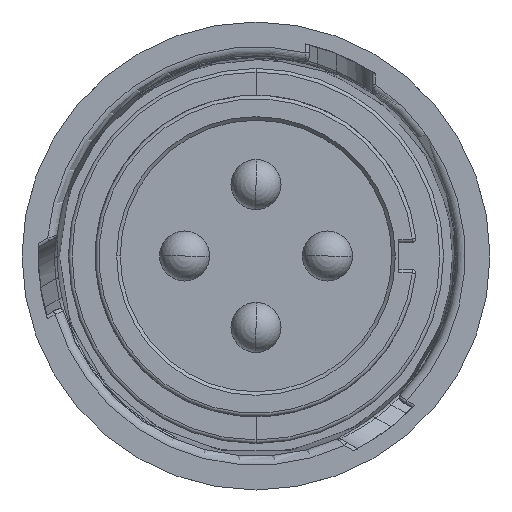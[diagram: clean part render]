
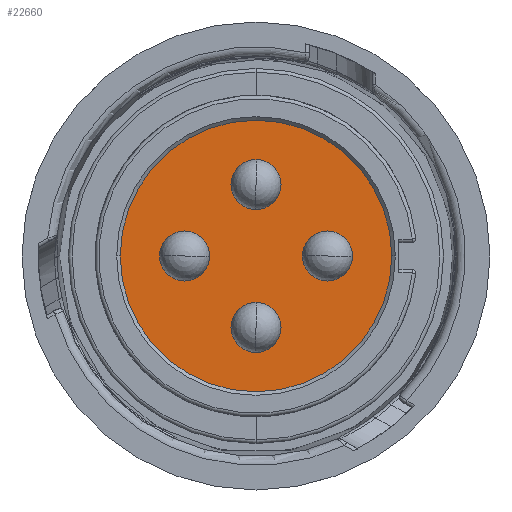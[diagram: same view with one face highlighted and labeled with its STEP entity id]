
A CAD part, left-side view. The second image highlights one B-rep face of the part: STEP entity #22660.
In plain terms, the highlighted planar face has unit normal (-1, 0, 0).
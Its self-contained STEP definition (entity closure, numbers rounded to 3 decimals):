
#8116=DIRECTION('',(0.,-1.,0.));
#8117=VECTOR('',#8116,0.077);
#8118=CARTESIAN_POINT('',(1.,-7.7,-0.6));
#8119=LINE('',#8118,#8117);
#8124=CARTESIAN_POINT('',(1.,-4.,0.));
#8125=DIRECTION('',(-1.,0.,0.));
#8126=DIRECTION('',(0.,-1.,0.));
#8127=AXIS2_PLACEMENT_3D('',#8124,#8125,#8126);
#8129=CARTESIAN_POINT('',(1.,-4.,0.));
#8130=DIRECTION('',(-1.,0.,0.));
#8131=DIRECTION('',(0.,1.,0.));
#8132=AXIS2_PLACEMENT_3D('',#8129,#8130,#8131);
#8134=CARTESIAN_POINT('',(1.,0.,-4.));
#8135=DIRECTION('',(-1.,0.,0.));
#8136=DIRECTION('',(0.,0.,-1.));
#8137=AXIS2_PLACEMENT_3D('',#8134,#8135,#8136);
#8139=CARTESIAN_POINT('',(1.,0.,-4.));
#8140=DIRECTION('',(-1.,0.,0.));
#8141=DIRECTION('',(0.,0.,1.));
#8142=AXIS2_PLACEMENT_3D('',#8139,#8140,#8141);
#8144=CARTESIAN_POINT('',(1.,4.,0.));
#8145=DIRECTION('',(-1.,0.,0.));
#8146=DIRECTION('',(0.,1.,0.));
#8147=AXIS2_PLACEMENT_3D('',#8144,#8145,#8146);
#8149=CARTESIAN_POINT('',(1.,4.,0.));
#8150=DIRECTION('',(-1.,0.,0.));
#8151=DIRECTION('',(0.,-1.,0.));
#8152=AXIS2_PLACEMENT_3D('',#8149,#8150,#8151);
#8154=CARTESIAN_POINT('',(1.,0.,4.));
#8155=DIRECTION('',(-1.,0.,0.));
#8156=DIRECTION('',(0.,0.,1.));
#8157=AXIS2_PLACEMENT_3D('',#8154,#8155,#8156);
#8159=CARTESIAN_POINT('',(1.,0.,4.));
#8160=DIRECTION('',(-1.,0.,0.));
#8161=DIRECTION('',(0.,0.,-1.));
#8162=AXIS2_PLACEMENT_3D('',#8159,#8160,#8161);
#8164=CARTESIAN_POINT('',(1.,0.,0.));
#8165=DIRECTION('',(1.,0.,0.));
#8166=DIRECTION('',(0.,-0.997,-0.077));
#8167=AXIS2_PLACEMENT_3D('',#8164,#8165,#8166);
#8185=DIRECTION('',(0.,0.,-1.));
#8186=VECTOR('',#8185,0.2);
#8187=CARTESIAN_POINT('',(1.,0.,-7.6));
#8188=LINE('',#8187,#8186);
#8216=DIRECTION('',(0.,0.,1.));
#8217=VECTOR('',#8216,0.2);
#8218=CARTESIAN_POINT('',(1.,0.,7.6));
#8219=LINE('',#8218,#8217);
#8220=CARTESIAN_POINT('',(1.,0.,0.));
#8221=DIRECTION('',(1.,0.,0.));
#8222=DIRECTION('',(0.,0.,-1.));
#8223=AXIS2_PLACEMENT_3D('',#8220,#8221,#8222);
#8225=CARTESIAN_POINT('',(1.,0.,0.));
#8226=DIRECTION('',(1.,0.,0.));
#8227=DIRECTION('',(0.,0.,1.));
#8228=AXIS2_PLACEMENT_3D('',#8225,#8226,#8227);
#8242=DIRECTION('',(0.,-1.,0.));
#8243=VECTOR('',#8242,0.077);
#8244=CARTESIAN_POINT('',(1.,-7.7,0.6));
#8245=LINE('',#8244,#8243);
#8250=CARTESIAN_POINT('',(1.,-7.7,0.5));
#8251=DIRECTION('',(-1.,0.,0.));
#8252=DIRECTION('',(0.,0.,1.));
#8253=AXIS2_PLACEMENT_3D('',#8250,#8251,#8252);
#8259=DIRECTION('',(0.,0.,1.));
#8260=VECTOR('',#8259,1.);
#8261=CARTESIAN_POINT('',(1.,-7.6,-0.5));
#8262=LINE('',#8261,#8260);
#8279=CARTESIAN_POINT('',(1.,-7.7,-0.5));
#8280=DIRECTION('',(-1.,0.,0.));
#8281=DIRECTION('',(0.,1.,0.));
#8282=AXIS2_PLACEMENT_3D('',#8279,#8280,#8281);
#11726=CARTESIAN_POINT('',(1.,-7.7,-0.6));
#11727=CARTESIAN_POINT('',(1.,-7.777,-0.6));
#11728=VERTEX_POINT('',#11726);
#11729=VERTEX_POINT('',#11727);
#11730=CARTESIAN_POINT('',(1.,-7.6,-0.5));
#11731=VERTEX_POINT('',#11730);
#11732=CARTESIAN_POINT('',(1.,-7.7,0.6));
#11733=CARTESIAN_POINT('',(1.,-7.777,0.6));
#11734=VERTEX_POINT('',#11732);
#11735=VERTEX_POINT('',#11733);
#11736=CARTESIAN_POINT('',(1.,-7.6,0.5));
#11737=VERTEX_POINT('',#11736);
#11738=CARTESIAN_POINT('',(1.,0.,-7.8));
#11739=VERTEX_POINT('',#11738);
#11740=CARTESIAN_POINT('',(1.,0.,7.8));
#11741=VERTEX_POINT('',#11740);
#11742=CARTESIAN_POINT('',(1.,0.,-7.6));
#11743=CARTESIAN_POINT('',(1.,0.,7.6));
#11744=VERTEX_POINT('',#11742);
#11745=VERTEX_POINT('',#11743);
#11746=CARTESIAN_POINT('',(1.,-5.4,0.));
#11747=CARTESIAN_POINT('',(1.,-2.6,0.));
#11748=VERTEX_POINT('',#11746);
#11749=VERTEX_POINT('',#11747);
#11750=CARTESIAN_POINT('',(1.,0.,-5.4));
#11751=CARTESIAN_POINT('',(1.,0.,-2.6));
#11752=VERTEX_POINT('',#11750);
#11753=VERTEX_POINT('',#11751);
#11754=CARTESIAN_POINT('',(1.,5.4,0.));
#11755=CARTESIAN_POINT('',(1.,2.6,0.));
#11756=VERTEX_POINT('',#11754);
#11757=VERTEX_POINT('',#11755);
#11758=CARTESIAN_POINT('',(1.,0.,5.4));
#11759=CARTESIAN_POINT('',(1.,0.,2.6));
#11760=VERTEX_POINT('',#11758);
#11761=VERTEX_POINT('',#11759);
#22610=CARTESIAN_POINT('',(1.,0.,0.));
#22611=DIRECTION('',(-1.,0.,0.));
#22612=DIRECTION('',(0.,-1.,0.));
#22613=AXIS2_PLACEMENT_3D('',#22610,#22611,#22612);
#22614=PLANE('',#22613);
#22615=ORIENTED_EDGE('',*,*,#22600,.T.);
#22617=ORIENTED_EDGE('',*,*,#22616,.T.);
#22619=ORIENTED_EDGE('',*,*,#22618,.F.);
#22621=ORIENTED_EDGE('',*,*,#22620,.T.);
#22623=ORIENTED_EDGE('',*,*,#22622,.T.);
#22625=ORIENTED_EDGE('',*,*,#22624,.T.);
#22627=ORIENTED_EDGE('',*,*,#22626,.F.);
#22629=ORIENTED_EDGE('',*,*,#22628,.T.);
#22631=ORIENTED_EDGE('',*,*,#22630,.F.);
#22633=ORIENTED_EDGE('',*,*,#22632,.T.);
#22634=EDGE_LOOP('',(#22615,#22617,#22619,#22621,#22623,#22625,#22627,#22629,
#22631,#22633));
#22635=FACE_OUTER_BOUND('',#22634,.F.);
#22637=ORIENTED_EDGE('',*,*,#22636,.T.);
#22639=ORIENTED_EDGE('',*,*,#22638,.T.);
#22640=EDGE_LOOP('',(#22637,#22639));
#22641=FACE_BOUND('',#22640,.F.);
#22643=ORIENTED_EDGE('',*,*,#22642,.T.);
#22645=ORIENTED_EDGE('',*,*,#22644,.T.);
#22646=EDGE_LOOP('',(#22643,#22645));
#22647=FACE_BOUND('',#22646,.F.);
#22649=ORIENTED_EDGE('',*,*,#22648,.T.);
#22651=ORIENTED_EDGE('',*,*,#22650,.T.);
#22652=EDGE_LOOP('',(#22649,#22651));
#22653=FACE_BOUND('',#22652,.F.);
#22655=ORIENTED_EDGE('',*,*,#22654,.T.);
#22657=ORIENTED_EDGE('',*,*,#22656,.T.);
#22658=EDGE_LOOP('',(#22655,#22657));
#22659=FACE_BOUND('',#22658,.F.);
#8128=CIRCLE('',#8127,1.4);
#8133=CIRCLE('',#8132,1.4);
#8138=CIRCLE('',#8137,1.4);
#8143=CIRCLE('',#8142,1.4);
#8148=CIRCLE('',#8147,1.4);
#8153=CIRCLE('',#8152,1.4);
#8158=CIRCLE('',#8157,1.4);
#8163=CIRCLE('',#8162,1.4);
#8168=CIRCLE('',#8167,7.8);
#8224=CIRCLE('',#8223,7.6);
#8229=CIRCLE('',#8228,7.8);
#8254=CIRCLE('',#8253,0.1);
#8283=CIRCLE('',#8282,0.1);
#22600=EDGE_CURVE('',#11728,#11729,#8119,.T.);
#22616=EDGE_CURVE('',#11729,#11739,#8168,.T.);
#22618=EDGE_CURVE('',#11744,#11739,#8188,.T.);
#22620=EDGE_CURVE('',#11744,#11745,#8224,.T.);
#22622=EDGE_CURVE('',#11745,#11741,#8219,.T.);
#22624=EDGE_CURVE('',#11741,#11735,#8229,.T.);
#22626=EDGE_CURVE('',#11734,#11735,#8245,.T.);
#22628=EDGE_CURVE('',#11734,#11737,#8254,.T.);
#22630=EDGE_CURVE('',#11731,#11737,#8262,.T.);
#22632=EDGE_CURVE('',#11731,#11728,#8283,.T.);
#22636=EDGE_CURVE('',#11748,#11749,#8128,.T.);
#22638=EDGE_CURVE('',#11749,#11748,#8133,.T.);
#22642=EDGE_CURVE('',#11752,#11753,#8138,.T.);
#22644=EDGE_CURVE('',#11753,#11752,#8143,.T.);
#22648=EDGE_CURVE('',#11756,#11757,#8148,.T.);
#22650=EDGE_CURVE('',#11757,#11756,#8153,.T.);
#22654=EDGE_CURVE('',#11760,#11761,#8158,.T.);
#22656=EDGE_CURVE('',#11761,#11760,#8163,.T.);
#22660=ADVANCED_FACE('',(#22635,#22641,#22647,#22653,#22659),#22614,.T.);
